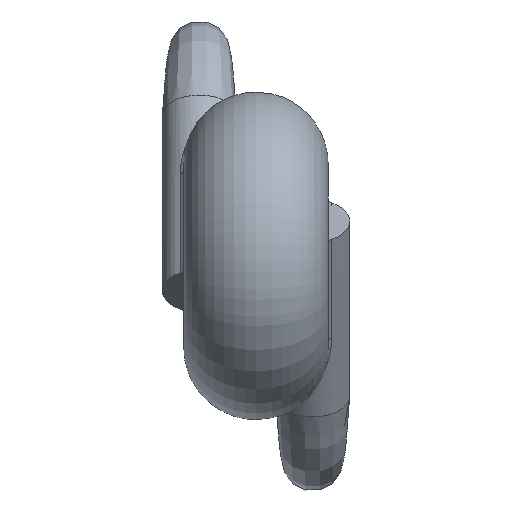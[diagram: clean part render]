
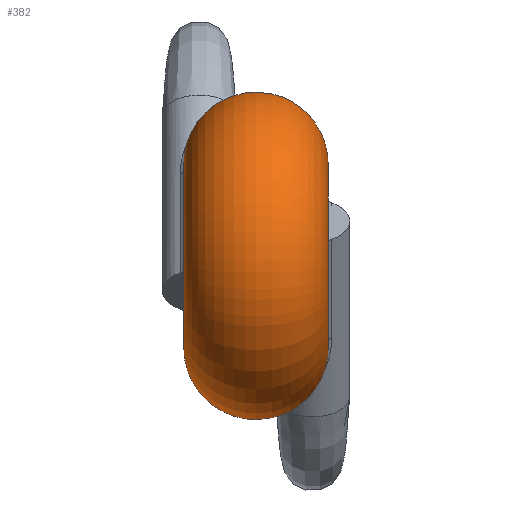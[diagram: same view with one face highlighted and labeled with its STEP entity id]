
A CAD part, left-side view. The second image highlights one B-rep face of the part: STEP entity #382.
In plain terms, the highlighted toroidal (fillet/blend) face has major radius 2.35 mm and minor radius 1.85 mm.
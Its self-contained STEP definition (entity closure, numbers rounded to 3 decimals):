
#14=TOROIDAL_SURFACE('',#420,2.35,1.85);
#21=B_SPLINE_CURVE_WITH_KNOTS('',3,(#1414,#1415,#1416,#1417,#1418,#1419,
#1420,#1421,#1422,#1423,#1424,#1425,#1426,#1427,#1428,#1429),
 .UNSPECIFIED.,.F.,.F.,(4,1,1,1,1,1,1,1,1,1,1,1,1,4),(-0.74,
-0.687,-0.635,-0.529,-0.476,
-0.423,-0.383,-0.317,-0.264,
-0.212,-0.159,-0.106,-0.053,
0.),.UNSPECIFIED.);
#22=B_SPLINE_CURVE_WITH_KNOTS('',3,(#1437,#1438,#1439,#1440,#1441,#1442,
#1443,#1444,#1445,#1446,#1447,#1448,#1449,#1450,#1451,#1452),
 .UNSPECIFIED.,.F.,.F.,(4,1,1,1,1,1,1,1,1,1,1,1,1,4),(-0.74,
-0.687,-0.635,-0.529,-0.476,
-0.423,-0.383,-0.317,-0.264,
-0.212,-0.159,-0.106,-0.053,
0.),.UNSPECIFIED.);
#31=FACE_BOUND('',#85,.T.);
#55=FACE_OUTER_BOUND('',#84,.T.);
#84=EDGE_LOOP('',(#281,#282));
#85=EDGE_LOOP('',(#283,#284));
#151=CIRCLE('',#421,2.35);
#152=CIRCLE('',#422,2.35);
#181=VERTEX_POINT('',#1327);
#183=VERTEX_POINT('',#1412);
#185=VERTEX_POINT('',#1435);
#186=VERTEX_POINT('',#1436);
#219=EDGE_CURVE('',#183,#181,#21,.T.);
#222=EDGE_CURVE('',#185,#186,#22,.T.);
#223=EDGE_CURVE('',#185,#186,#151,.T.);
#224=EDGE_CURVE('',#183,#181,#152,.T.);
#281=ORIENTED_EDGE('',*,*,#222,.T.);
#282=ORIENTED_EDGE('',*,*,#223,.F.);
#283=ORIENTED_EDGE('',*,*,#219,.T.);
#284=ORIENTED_EDGE('',*,*,#224,.F.);
#382=ADVANCED_FACE('',(#55,#31),#14,.T.);
#420=AXIS2_PLACEMENT_3D('',#1434,#497,#498);
#421=AXIS2_PLACEMENT_3D('',#1453,#499,#500);
#422=AXIS2_PLACEMENT_3D('',#1454,#501,#502);
#497=DIRECTION('center_axis',(0.,1.,0.));
#498=DIRECTION('ref_axis',(1.,0.,0.));
#499=DIRECTION('center_axis',(0.,-1.,0.));
#500=DIRECTION('ref_axis',(-1.,0.,0.));
#501=DIRECTION('center_axis',(0.,1.,0.));
#502=DIRECTION('ref_axis',(-1.,0.,0.));
#1327=CARTESIAN_POINT('',(0.858,2.895,2.188));
#1412=CARTESIAN_POINT('',(2.233,2.895,0.731));
#1414=CARTESIAN_POINT('Ctrl Pts',(2.233,2.895,0.731));
#1415=CARTESIAN_POINT('Ctrl Pts',(2.321,2.895,0.871));
#1416=CARTESIAN_POINT('Ctrl Pts',(2.513,2.867,1.137));
#1417=CARTESIAN_POINT('Ctrl Pts',(2.935,2.667,1.582));
#1418=CARTESIAN_POINT('Ctrl Pts',(3.281,2.242,1.955));
#1419=CARTESIAN_POINT('Ctrl Pts',(3.307,1.745,2.39));
#1420=CARTESIAN_POINT('Ctrl Pts',(3.152,1.461,2.719));
#1421=CARTESIAN_POINT('Ctrl Pts',(2.842,1.288,3.085));
#1422=CARTESIAN_POINT('Ctrl Pts',(2.432,1.327,3.416));
#1423=CARTESIAN_POINT('Ctrl Pts',(2.003,1.628,3.604));
#1424=CARTESIAN_POINT('Ctrl Pts',(1.692,2.015,3.568));
#1425=CARTESIAN_POINT('Ctrl Pts',(1.472,2.387,3.343));
#1426=CARTESIAN_POINT('Ctrl Pts',(1.299,2.675,2.998));
#1427=CARTESIAN_POINT('Ctrl Pts',(1.117,2.855,2.591));
#1428=CARTESIAN_POINT('Ctrl Pts',(0.953,2.895,2.317));
#1429=CARTESIAN_POINT('Ctrl Pts',(0.858,2.895,2.188));
#1434=CARTESIAN_POINT('Origin',(0.,1.045,0.));
#1435=CARTESIAN_POINT('',(2.233,-0.805,-0.731));
#1436=CARTESIAN_POINT('',(0.858,-0.805,-2.188));
#1437=CARTESIAN_POINT('Ctrl Pts',(2.233,-0.805,-0.731));
#1438=CARTESIAN_POINT('Ctrl Pts',(2.321,-0.805,-0.871));
#1439=CARTESIAN_POINT('Ctrl Pts',(2.513,-0.777,-1.137));
#1440=CARTESIAN_POINT('Ctrl Pts',(2.935,-0.577,-1.582));
#1441=CARTESIAN_POINT('Ctrl Pts',(3.281,-0.152,-1.955));
#1442=CARTESIAN_POINT('Ctrl Pts',(3.307,0.345,-2.39));
#1443=CARTESIAN_POINT('Ctrl Pts',(3.152,0.629,-2.719));
#1444=CARTESIAN_POINT('Ctrl Pts',(2.842,0.802,-3.085));
#1445=CARTESIAN_POINT('Ctrl Pts',(2.432,0.763,-3.416));
#1446=CARTESIAN_POINT('Ctrl Pts',(2.003,0.462,-3.604));
#1447=CARTESIAN_POINT('Ctrl Pts',(1.692,0.075,-3.568));
#1448=CARTESIAN_POINT('Ctrl Pts',(1.472,-0.297,-3.344));
#1449=CARTESIAN_POINT('Ctrl Pts',(1.299,-0.585,-2.999));
#1450=CARTESIAN_POINT('Ctrl Pts',(1.117,-0.765,-2.591));
#1451=CARTESIAN_POINT('Ctrl Pts',(0.953,-0.805,-2.317));
#1452=CARTESIAN_POINT('Ctrl Pts',(0.858,-0.805,-2.188));
#1453=CARTESIAN_POINT('Origin',(0.,-0.805,0.));
#1454=CARTESIAN_POINT('Origin',(0.,2.895,0.));
